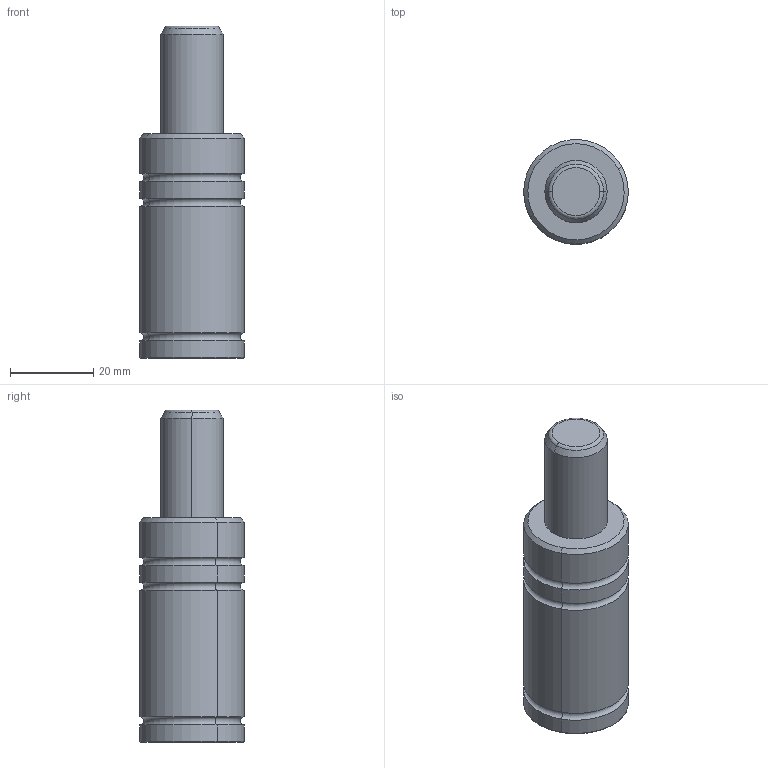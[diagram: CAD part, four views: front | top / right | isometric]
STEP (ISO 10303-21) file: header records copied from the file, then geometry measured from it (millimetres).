
FILE_DESCRIPTION(('CATIA V5 STEP Exchange'),'2;1');
FILE_NAME('W:\CATALOGO GENERAL 2018\FICHEROS CAD\001-MICRO\MICRO 25V\MICRO25Vx25.stp','2021-07-27T06:39:04+00:00',('none'),('none'),'CATIA Version 5 Release 17 (IN-10)','CATIA V5 STEP AP203','none');
FILE_SCHEMA(('CONFIG_CONTROL_DESIGN'));
Length unit declared in the file: millimetre
Products named in the file (1): MICRO25Vx25
Bounding box: 25.19 x 25.19 x 80 mm (x, y, z)
Volume: 30930.3 mm3; surface area: 7070.8 mm2
Topology: 2 solids, 2 shells, 33 faces, 62 edges, 34 vertices
Faces by surface type: cylinder 12, torus 10, cone 6, plane 5
Entity records: 745 total; most frequent: ORIENTED_EDGE 124, CARTESIAN_POINT 115, DIRECTION 98, AXIS2_PLACEMENT_3D 63, EDGE_CURVE 62, CIRCLE 44, EDGE_LOOP 34, VERTEX_POINT 34
